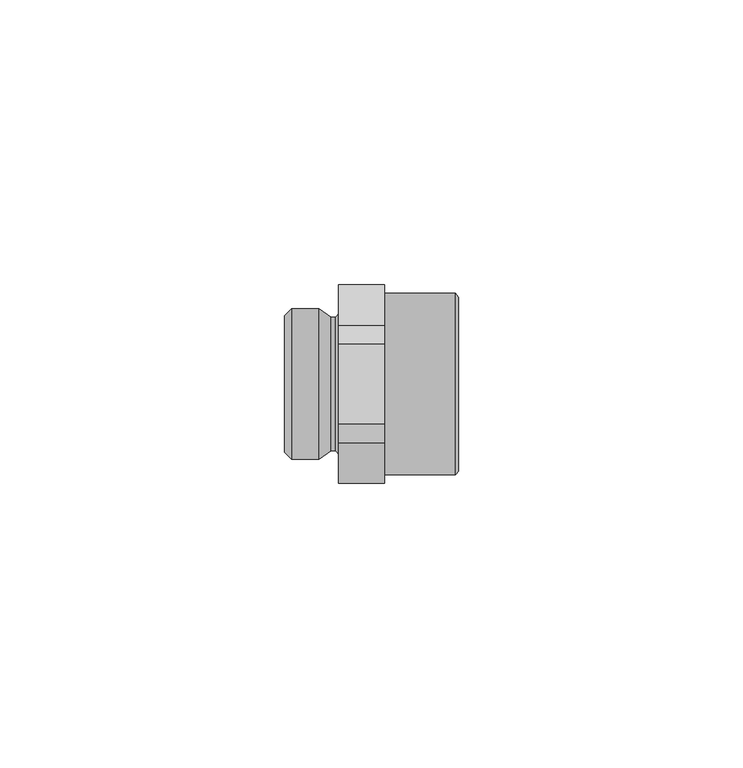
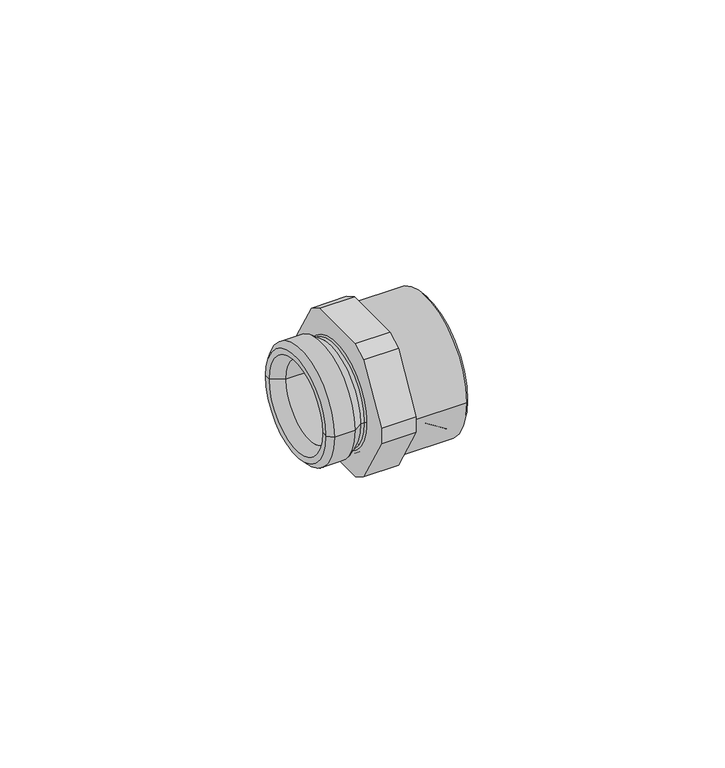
"""IFC4 building model written with IfcOpenShell, lengths in millimetres: pipe fitting geometry."""

from ifc_helpers import new_model, si_unit, point, frame, origin, place, context, project, spatial, polyline, circle_curve, ellipse_curve, trimmed, outline, extrude, source, transform, mapped, element, save
from ifc_brep_helpers import plane_surface, cylinder_surface, revolved_surface, advanced_brep


def pipe_fitting_ba7d6cd7(model_context):
    return source(origin(), model_context, "Body", "SolidModel", [
        extrude(outline(polyline([(-7.0889591, 16.0), (7.0886953, 16.0), (10.3120588, 14.1389902), (17.4009284, 1.860708), (17.4009284, -1.860708), (10.3123921, -14.1384129), (7.0880287, -16.0), (-7.2148296, -16.0), (-10.3120529, -14.1390005), (-17.400723, -1.8610637), (-17.400723, 1.8610637), (-10.3119269, 14.1392187), (-7.0889591, 16.0)])), frame((-8.0, 0.0, 0.0), z_axis=(1.0, 0.0, 0.0), x_axis=(0.0, 1.0, 0.0)), (0.0, 0.0, 1.0), 8.0),
        advanced_brep(
        [(-17.5, -12.0204801, 0.0), (-17.5, 12.0204801, 0.0), (-16.3017087, 13.2187713, 0.0), (-16.3017087, -13.2187713, 0.0), (-17.5, -10.718849, 0.0), (-17.5, 10.718849, 0.0), (-14.5795209, -9.100001, 0.0), (-14.5795209, 9.100001, 0.0), (-8.0000002, -9.100001, 0.0), (-8.0000002, 9.100001, 0.0), (-5.0414999, -12.0585013, 0.0), (-5.0414999, 12.0585013, 0.0), (9.9752971, -12.0585013, 0.0), (9.9752971, 12.0585013, 0.0), (13.0, -13.8048143, 0.0), (13.0, 13.8048143, 0.0), (13.0, -15.2711527, 0.0), (13.0, 15.2711527, 0.0), (12.493076, -15.8971517, 0.0), (12.493076, 15.8971517, 0.0), (0.0, -15.8971517, 0.0), (0.0, 15.8971517, 0.0), (0.0, -12.6383738, 0.0), (0.0, 12.6383738, 0.0), (-8.0, -12.6383738, 0.0), (-8.0, 12.6383738, 0.0), (-8.5540416, -11.7517219, 0.0), (-8.5540416, 11.7517219, 0.0), (-9.391603, -11.7517219, 0.0), (-9.391603, 11.7517219, 0.0), (-11.4867667, -13.2187713, 0.0), (-11.4867667, 13.2187713, 0.0)],
        [
            (0, 1, circle_curve(frame((-17.5, 0.0, 0.0), z_axis=(1.0, 0.0, 0.0), x_axis=(0.0, 1.0, 0.0)), 12.0204801)),
            (1, 2),
            (2, 3, circle_curve(frame((-16.3017087, 0.0, 0.0), z_axis=(-1.0, 0.0, 0.0), x_axis=(0.0, 1.0, 0.0)), 13.2187713)),
            (3, 0),
            (1, 0, circle_curve(frame((-17.5, 0.0, 0.0), z_axis=(1.0, 0.0, 0.0), x_axis=(0.0, 1.0, 0.0)), 12.0204801)),
            (3, 2, circle_curve(frame((-16.3017087, 0.0, 0.0), z_axis=(-1.0, 0.0, 0.0), x_axis=(0.0, 1.0, 0.0)), 13.2187713)),
            (4, 5, circle_curve(frame((-17.5, 0.0, 0.0), z_axis=(1.0, 0.0, 0.0), x_axis=(0.0, 1.0, 0.0)), 10.718849)),
            (5, 1),
            (0, 4),
            (5, 4, circle_curve(frame((-17.5, 0.0, 0.0), z_axis=(1.0, 0.0, 0.0), x_axis=(0.0, 1.0, 0.0)), 10.718849)),
            (6, 7, circle_curve(frame((-14.5795209, 0.0, 0.0), z_axis=(1.0, 0.0, 0.0), x_axis=(0.0, 1.0, 0.0)), 9.100001)),
            (7, 5),
            (4, 6),
            (7, 6, circle_curve(frame((-14.5795209, 0.0, 0.0), z_axis=(1.0, 0.0, 0.0), x_axis=(0.0, 1.0, 0.0)), 9.100001)),
            (8, 9, circle_curve(frame((-8.0000002, 0.0, 0.0), z_axis=(1.0, 0.0, 0.0), x_axis=(0.0, 1.0, 0.0)), 9.100001)),
            (9, 7),
            (6, 8),
            (9, 8, circle_curve(frame((-8.0000002, 0.0, 0.0), z_axis=(1.0, 0.0, 0.0), x_axis=(0.0, 1.0, 0.0)), 9.100001)),
            (10, 11, circle_curve(frame((-5.0414999, 0.0, 0.0), z_axis=(1.0, 0.0, 0.0), x_axis=(0.0, 1.0, 0.0)), 12.0585013)),
            (11, 9),
            (8, 10),
            (11, 10, circle_curve(frame((-5.0414999, 0.0, 0.0), z_axis=(1.0, 0.0, 0.0), x_axis=(0.0, 1.0, 0.0)), 12.0585013)),
            (12, 13, circle_curve(frame((9.9752971, 0.0, 0.0), z_axis=(1.0, 0.0, 0.0), x_axis=(0.0, 1.0, 0.0)), 12.0585013)),
            (13, 11),
            (10, 12),
            (13, 12, circle_curve(frame((9.9752971, 0.0, 0.0), z_axis=(1.0, 0.0, 0.0), x_axis=(0.0, 1.0, 0.0)), 12.0585013)),
            (14, 15, circle_curve(frame((13.0, 0.0, 0.0), z_axis=(1.0, 0.0, 0.0), x_axis=(0.0, 1.0, 0.0)), 13.8048143)),
            (15, 13),
            (12, 14),
            (15, 14, circle_curve(frame((13.0, 0.0, 0.0), z_axis=(1.0, 0.0, 0.0), x_axis=(0.0, 1.0, 0.0)), 13.8048143)),
            (16, 17, circle_curve(frame((13.0, 0.0, 0.0), z_axis=(1.0, 0.0, 0.0), x_axis=(0.0, 1.0, 0.0)), 15.2711527)),
            (17, 15),
            (14, 16),
            (17, 16, circle_curve(frame((13.0, 0.0, 0.0), z_axis=(1.0, 0.0, 0.0), x_axis=(0.0, 1.0, 0.0)), 15.2711527)),
            (18, 19, circle_curve(frame((12.493076, 0.0, 0.0), z_axis=(1.0, 0.0, 0.0), x_axis=(0.0, 1.0, 0.0)), 15.8971517)),
            (19, 17),
            (16, 18),
            (19, 18, circle_curve(frame((12.493076, 0.0, 0.0), z_axis=(1.0, 0.0, 0.0), x_axis=(0.0, 1.0, 0.0)), 15.8971517)),
            (20, 21, circle_curve(frame((0.0, 0.0, 0.0), z_axis=(1.0, 0.0, 0.0), x_axis=(0.0, 1.0, 0.0)), 15.8971517)),
            (21, 19),
            (18, 20),
            (21, 20, circle_curve(frame((0.0, 0.0, 0.0), z_axis=(1.0, 0.0, 0.0), x_axis=(0.0, 1.0, 0.0)), 15.8971517)),
            (22, 23, circle_curve(frame((0.0, 0.0, 0.0), z_axis=(1.0, 0.0, 0.0), x_axis=(0.0, 1.0, 0.0)), 12.6383738)),
            (23, 21),
            (20, 22),
            (23, 22, circle_curve(frame((0.0, 0.0, 0.0), z_axis=(1.0, 0.0, 0.0), x_axis=(0.0, 1.0, 0.0)), 12.6383738)),
            (24, 25, circle_curve(frame((-8.0, 0.0, 0.0), z_axis=(1.0, 0.0, 0.0), x_axis=(0.0, 1.0, 0.0)), 12.6383738)),
            (25, 23),
            (22, 24),
            (25, 24, circle_curve(frame((-8.0, 0.0, 0.0), z_axis=(1.0, 0.0, 0.0), x_axis=(0.0, 1.0, 0.0)), 12.6383738)),
            (26, 27, circle_curve(frame((-8.5540416, 0.0, 0.0), z_axis=(1.0, 0.0, 0.0), x_axis=(0.0, 1.0, 0.0)), 11.7517219)),
            (27, 25, circle_curve(frame((-9.2011107, 12.7724833, 0.0), z_axis=(0.0, 0.0, 1.0), x_axis=(1.0, 0.0, 0.0)), 1.2085745)),
            (24, 26, circle_curve(frame((-9.2011107, -12.7724833, 0.0), z_axis=(0.0, 0.0, 1.0), x_axis=(1.0, 0.0, 0.0)), 1.2085745)),
            (27, 26, circle_curve(frame((-8.5540416, 0.0, 0.0), z_axis=(1.0, 0.0, 0.0), x_axis=(0.0, 1.0, 0.0)), 11.7517219)),
            (28, 29, circle_curve(frame((-9.391603, 0.0, 0.0), z_axis=(1.0, 0.0, 0.0), x_axis=(0.0, 1.0, 0.0)), 11.7517219)),
            (29, 27),
            (26, 28),
            (29, 28, circle_curve(frame((-9.391603, 0.0, 0.0), z_axis=(1.0, 0.0, 0.0), x_axis=(0.0, 1.0, 0.0)), 11.7517219)),
            (30, 31, circle_curve(frame((-11.4867667, 0.0, 0.0), z_axis=(1.0, 0.0, 0.0), x_axis=(0.0, 1.0, 0.0)), 13.2187713)),
            (31, 29),
            (28, 30),
            (31, 30, circle_curve(frame((-11.4867667, 0.0, 0.0), z_axis=(1.0, 0.0, 0.0), x_axis=(0.0, 1.0, 0.0)), 13.2187713)),
            (2, 31),
            (30, 3),
        ],
        [
            revolved_surface(polyline([(-16.3017087, 13.2187713, 0.0), (-17.5, 12.0204801, 0.0)]), (18.0, 0.0, 0.0), (-1.0, 0.0, 0.0)),
            plane_surface(frame((-17.5, 0.0, 0.0), z_axis=(-1.0, 0.0, 0.0), x_axis=(0.0, 1.0, 0.0))),
            revolved_surface(polyline([(-17.5, 10.718849, 0.0), (-14.5795209, 9.100001, 0.0)]), (18.0, 0.0, 0.0), (-1.0, 0.0, 0.0)),
            revolved_surface(polyline([(-14.579520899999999, 9.100001, 0.0), (-8.000000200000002, 9.100001, 0.0)]), (18.0, 0.0, 0.0), (-1.0, 0.0, 0.0)),
            revolved_surface(polyline([(-8.0000002, 9.100001, 0.0), (-5.0414999, 12.0585013, 0.0)]), (18.0, 0.0, 0.0), (-1.0, 0.0, 0.0)),
            revolved_surface(polyline([(-5.041499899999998, 12.0585013, 0.0), (9.9752971, 12.0585013, 0.0)]), (18.0, 0.0, 0.0), (-1.0, 0.0, 0.0)),
            revolved_surface(polyline([(9.9752971, 12.0585013, 0.0), (13.0, 13.8048143, 0.0)]), (18.0, 0.0, 0.0), (-1.0, 0.0, 0.0)),
            plane_surface(frame((13.0, 0.0, 0.0), z_axis=(1.0, 0.0, 0.0), x_axis=(0.0, 1.0, 0.0))),
            revolved_surface(polyline([(13.0, 15.2711527, 0.0), (12.493076, 15.8971517, 0.0)]), (18.0, 0.0, 0.0), (-1.0, 0.0, 0.0)),
            cylinder_surface(frame((18.0, 0.0, 0.0), z_axis=(-1.0, 0.0, 0.0), x_axis=(0.0, 1.0, 0.0)), 15.8971517),
            plane_surface(frame((0.0, 0.0, 0.0), z_axis=(-1.0, 0.0, 0.0), x_axis=(0.0, 1.0, 0.0))),
            cylinder_surface(frame((18.0, 0.0, 0.0), z_axis=(-1.0, 0.0, 0.0), x_axis=(0.0, 1.0, 0.0)), 12.6383738),
            revolved_surface(trimmed(ellipse_curve(frame((-9.2011107, 12.7724833, 0.0), z_axis=(0.0, 0.0, -1.0), x_axis=(1.0, 0.0, 0.0)), 1.2085745, 1.2085745), [point((-8.0, 12.6383738, 0.0))], [point((-8.5540416, 11.7517219, 0.0))], True, "CARTESIAN"), (18.0, 0.0, 0.0), (-1.0, 0.0, 0.0)),
            cylinder_surface(frame((18.0, 0.0, 0.0), z_axis=(-1.0, 0.0, 0.0), x_axis=(0.0, 1.0, 0.0)), 11.7517219),
            revolved_surface(polyline([(-9.391603, 11.7517219, 0.0), (-11.4867667, 13.2187713, 0.0)]), (18.0, 0.0, 0.0), (-1.0, 0.0, 0.0)),
            cylinder_surface(frame((18.0, 0.0, 0.0), z_axis=(-1.0, 0.0, 0.0), x_axis=(0.0, 1.0, 0.0)), 13.2187713),
        ],
        [
            (0, [[1, 2, 3, 4]]),
            (0, [[5, -4, 6, -2]]),
            (1, [[7, 8, -1, 9]]),
            (1, [[10, -9, -5, -8]]),
            (2, [[11, 12, -7, 13]]),
            (2, [[14, -13, -10, -12]]),
            (3, [[15, 16, -11, 17]]),
            (3, [[18, -17, -14, -16]]),
            (4, [[19, 20, -15, 21]]),
            (4, [[22, -21, -18, -20]]),
            (5, [[23, 24, -19, 25]]),
            (5, [[26, -25, -22, -24]]),
            (6, [[27, 28, -23, 29]]),
            (6, [[30, -29, -26, -28]]),
            (7, [[31, 32, -27, 33]]),
            (7, [[34, -33, -30, -32]]),
            (8, [[35, 36, -31, 37]]),
            (8, [[38, -37, -34, -36]]),
            (9, [[39, 40, -35, 41]]),
            (9, [[42, -41, -38, -40]]),
            (10, [[43, 44, -39, 45]]),
            (10, [[46, -45, -42, -44]]),
            (11, [[47, 48, -43, 49]]),
            (11, [[50, -49, -46, -48]]),
            (12, [[51, 52, -47, 53]]),
            (12, [[54, -53, -50, -52]]),
            (13, [[55, 56, -51, 57]]),
            (13, [[58, -57, -54, -56]]),
            (14, [[59, 60, -55, 61]]),
            (14, [[62, -61, -58, -60]]),
            (15, [[-3, 63, -59, 64]]),
            (15, [[-6, -64, -62, -63]]),
        ],
    ),
    ])


if __name__ == "__main__":
    model = new_model("IFC4")
    model_context = context("Model", 3, world=origin())
    ifc_project = project(units=[si_unit("LENGTHUNIT", "METRE", prefix="MILLI")], contexts=[model_context])
    site = spatial("IfcSite", under=ifc_project)
    building = spatial("IfcBuilding", under=site)
    placement = place(None, origin())
    pipe_fitting_shape = pipe_fitting_ba7d6cd7(model_context)
    element("IfcPipeFitting", 1, ObjectType="Conversion Nipple 3/4\"FT : Superpipe Conversion Nipple  16-3/4\"FT", at=placement, inside=building, context=model_context, shape_type="MappedRepresentation", body=[
        mapped(pipe_fitting_shape, transform((0.0, 0.0, 0.0), x_axis=(1.0, 0.0, 0.0), y_axis=(0.0, 1.0, 0.0), z_axis=(0.0, 0.0, 1.0))),
    ])
    save(model, "model.ifc")
